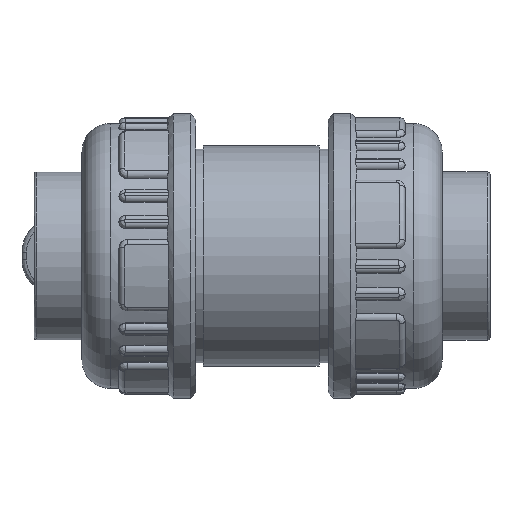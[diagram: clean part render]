
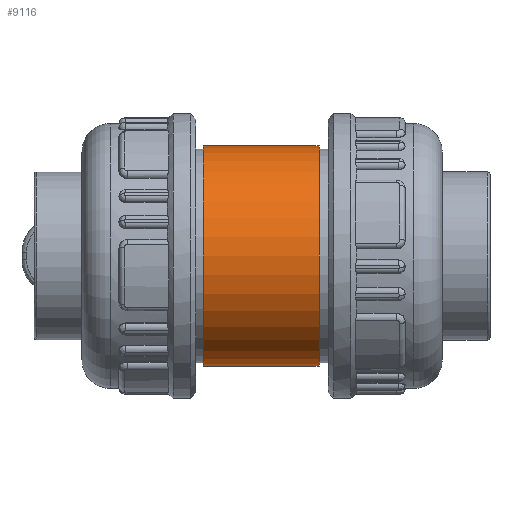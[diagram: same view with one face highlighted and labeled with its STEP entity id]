
A CAD part, left-side view. The second image highlights one B-rep face of the part: STEP entity #9116.
In plain terms, the highlighted cylindrical face has radius 19.3 mm (diameter 38.6 mm), a full revolution.
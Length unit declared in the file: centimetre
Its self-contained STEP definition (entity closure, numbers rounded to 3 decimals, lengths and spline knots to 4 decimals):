
#409=B_SPLINE_CURVE_WITH_KNOTS('',3,(#36918,#36919,#36920,#36921,#36922,
#36923,#36924,#36925,#36926,#36927,#36928,#36929,#36930,#36931,#36932,#36933,
#36934,#36935,#36936,#36937,#36938,#36939,#36940,#36941,#36942,#36943,#36944,
#36945,#36946,#36947,#36948,#36949,#36950,#36951),.UNSPECIFIED.,.T.,.F.,
(4,2,2,2,2,2,2,2,2,2,2,2,2,2,2,2,4),(0.,0.3654,0.7308,
1.0952,1.4596,1.8241,2.1885,2.5539,
2.9193,3.2847,3.65,4.0145,4.3789,
4.7434,5.1078,5.4732,5.8386),
 .UNSPECIFIED.);
#1664=CYLINDRICAL_SURFACE('',#9834,1.93);
#1761=FACE_BOUND('',#2652,.T.);
#1762=FACE_BOUND('',#2653,.T.);
#2097=FACE_OUTER_BOUND('',#2651,.T.);
#2651=EDGE_LOOP('',(#7000));
#2652=EDGE_LOOP('',(#7001));
#2653=EDGE_LOOP('',(#7002));
#3160=CIRCLE('',#9835,1.93);
#3161=CIRCLE('',#9836,1.93);
#3842=VERTEX_POINT('',#36915);
#3843=VERTEX_POINT('',#36917);
#3844=VERTEX_POINT('',#36952);
#4954=EDGE_CURVE('',#3842,#3842,#3160,.T.);
#4955=EDGE_CURVE('',#3843,#3843,#409,.T.);
#4956=EDGE_CURVE('',#3844,#3844,#3161,.T.);
#7000=ORIENTED_EDGE('',*,*,#4954,.F.);
#7001=ORIENTED_EDGE('',*,*,#4955,.T.);
#7002=ORIENTED_EDGE('',*,*,#4956,.T.);
#9116=ADVANCED_FACE('',(#2097,#1761,#1762),#1664,.T.);
#9834=AXIS2_PLACEMENT_3D('',#36914,#11468,#11469);
#9835=AXIS2_PLACEMENT_3D('',#36916,#11470,#11471);
#9836=AXIS2_PLACEMENT_3D('',#36953,#11472,#11473);
#11468=DIRECTION('center_axis',(0.,-1.,0.));
#11469=DIRECTION('ref_axis',(-1.,0.,0.));
#11470=DIRECTION('center_axis',(0.,-1.,0.));
#11471=DIRECTION('ref_axis',(1.,0.,0.));
#11472=DIRECTION('center_axis',(0.,-1.,0.));
#11473=DIRECTION('ref_axis',(1.,0.,0.));
#36914=CARTESIAN_POINT('Origin',(0.,0.015,
0.));
#36915=CARTESIAN_POINT('',(-1.93,-1.,0.));
#36916=CARTESIAN_POINT('Origin',(0.,-1.,
0.));
#36917=CARTESIAN_POINT('',(1.68,0.,-0.95));
#36918=CARTESIAN_POINT('Ctrl Pts',(1.68,0.,-0.95));
#36919=CARTESIAN_POINT('Ctrl Pts',(1.68,-0.1218,-0.95));
#36920=CARTESIAN_POINT('Ctrl Pts',(1.6947,-0.2499,-0.9252));
#36921=CARTESIAN_POINT('Ctrl Pts',(1.7444,-0.4831,
-0.8277));
#36922=CARTESIAN_POINT('Ctrl Pts',(1.7784,-0.5885,
-0.755));
#36923=CARTESIAN_POINT('Ctrl Pts',(1.8402,-0.7548,
-0.5887));
#36924=CARTESIAN_POINT('Ctrl Pts',(1.8723,-0.8277,
-0.4832));
#36925=CARTESIAN_POINT('Ctrl Pts',(1.9175,-0.9253,
-0.2497));
#36926=CARTESIAN_POINT('Ctrl Pts',(1.93,-0.95,-0.1215));
#36927=CARTESIAN_POINT('Ctrl Pts',(1.93,-0.95,0.1215));
#36928=CARTESIAN_POINT('Ctrl Pts',(1.9175,-0.9253,
0.2497));
#36929=CARTESIAN_POINT('Ctrl Pts',(1.8723,-0.8277,
0.4832));
#36930=CARTESIAN_POINT('Ctrl Pts',(1.8402,-0.7548,
0.5887));
#36931=CARTESIAN_POINT('Ctrl Pts',(1.7784,-0.5885,
0.755));
#36932=CARTESIAN_POINT('Ctrl Pts',(1.7444,-0.4831,
0.8277));
#36933=CARTESIAN_POINT('Ctrl Pts',(1.6947,-0.2499,0.9252));
#36934=CARTESIAN_POINT('Ctrl Pts',(1.68,-0.1218,0.95));
#36935=CARTESIAN_POINT('Ctrl Pts',(1.68,0.1218,0.95));
#36936=CARTESIAN_POINT('Ctrl Pts',(1.6947,0.2499,0.9252));
#36937=CARTESIAN_POINT('Ctrl Pts',(1.7444,0.4831,0.8277));
#36938=CARTESIAN_POINT('Ctrl Pts',(1.7784,0.5885,0.755));
#36939=CARTESIAN_POINT('Ctrl Pts',(1.8402,0.7548,0.5887));
#36940=CARTESIAN_POINT('Ctrl Pts',(1.8723,0.8277,0.4832));
#36941=CARTESIAN_POINT('Ctrl Pts',(1.9175,0.9253,0.2497));
#36942=CARTESIAN_POINT('Ctrl Pts',(1.93,0.95,0.1215));
#36943=CARTESIAN_POINT('Ctrl Pts',(1.93,0.95,-0.1215));
#36944=CARTESIAN_POINT('Ctrl Pts',(1.9175,0.9253,-0.2497));
#36945=CARTESIAN_POINT('Ctrl Pts',(1.8723,0.8277,-0.4832));
#36946=CARTESIAN_POINT('Ctrl Pts',(1.8402,0.7548,-0.5887));
#36947=CARTESIAN_POINT('Ctrl Pts',(1.7784,0.5885,-0.755));
#36948=CARTESIAN_POINT('Ctrl Pts',(1.7444,0.4831,-0.8277));
#36949=CARTESIAN_POINT('Ctrl Pts',(1.6947,0.2499,-0.9252));
#36950=CARTESIAN_POINT('Ctrl Pts',(1.68,0.1218,-0.95));
#36951=CARTESIAN_POINT('Ctrl Pts',(1.68,0.,-0.95));
#36952=CARTESIAN_POINT('',(-1.93,1.03,0.));
#36953=CARTESIAN_POINT('Origin',(0.,1.03,0.));
